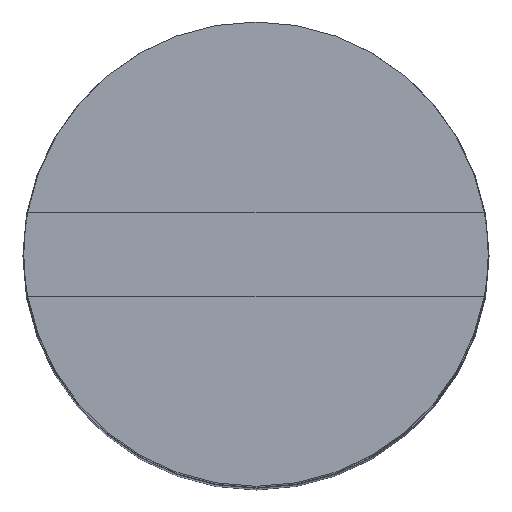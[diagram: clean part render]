
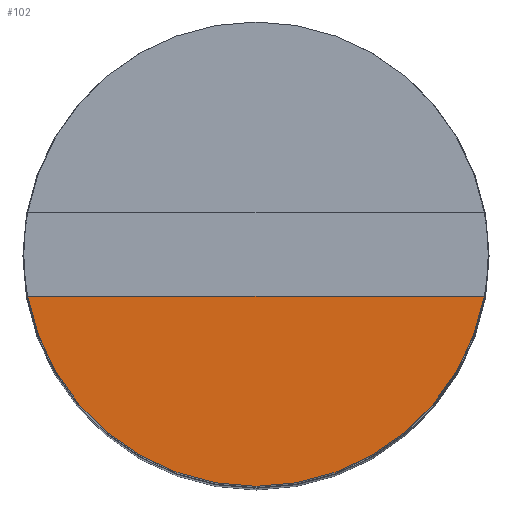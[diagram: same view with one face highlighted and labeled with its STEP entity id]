
A CAD part, top view. The second image highlights one B-rep face of the part: STEP entity #102.
In plain terms, the highlighted planar face has unit normal (0, 0, 1).
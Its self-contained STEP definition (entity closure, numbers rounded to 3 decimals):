
#20 = AXIS2_PLACEMENT_3D ( 'NONE', #175, #294, #31 ) ;
#26 = ORIENTED_EDGE ( 'NONE', *, *, #78, .T. ) ;
#28 = AXIS2_PLACEMENT_3D ( 'NONE', #385, #358, #210 ) ;
#31 = DIRECTION ( 'NONE',  ( 1., 0., 0. ) ) ;
#42 = CARTESIAN_POINT ( 'NONE',  ( 2.449, -0.45, 6. ) ) ;
#59 = VECTOR ( 'NONE', #347, 1000. ) ;
#60 = PLANE ( 'NONE',  #20 ) ;
#78 = EDGE_CURVE ( 'NONE', #281, #108, #132, .T. ) ;
#102 = ADVANCED_FACE ( 'NONE', ( #324 ), #60, .T. ) ;
#107 = CARTESIAN_POINT ( 'NONE',  ( 0., -0.45, 6. ) ) ;
#108 = VERTEX_POINT ( 'NONE', #42 ) ;
#132 = CIRCLE ( 'NONE', #28, 2.49 ) ;
#160 = ORIENTED_EDGE ( 'NONE', *, *, #321, .F. ) ;
#175 = CARTESIAN_POINT ( 'NONE',  ( 0., 0., 6. ) ) ;
#197 = CARTESIAN_POINT ( 'NONE',  ( -2.449, -0.45, 6. ) ) ;
#202 = LINE ( 'NONE', #107, #59 ) ;
#210 = DIRECTION ( 'NONE',  ( 1., 0., 0. ) ) ;
#281 = VERTEX_POINT ( 'NONE', #197 ) ;
#294 = DIRECTION ( 'NONE',  ( 0., 0., 1. ) ) ;
#321 = EDGE_CURVE ( 'NONE', #281, #108, #202, .T. ) ;
#324 = FACE_OUTER_BOUND ( 'NONE', #348, .T. ) ;
#347 = DIRECTION ( 'NONE',  ( 1., 0., 0. ) ) ;
#348 = EDGE_LOOP ( 'NONE', ( #160, #26 ) ) ;
#358 = DIRECTION ( 'NONE',  ( 0., 0., 1. ) ) ;
#385 = CARTESIAN_POINT ( 'NONE',  ( 0., 0., 6. ) ) ;
